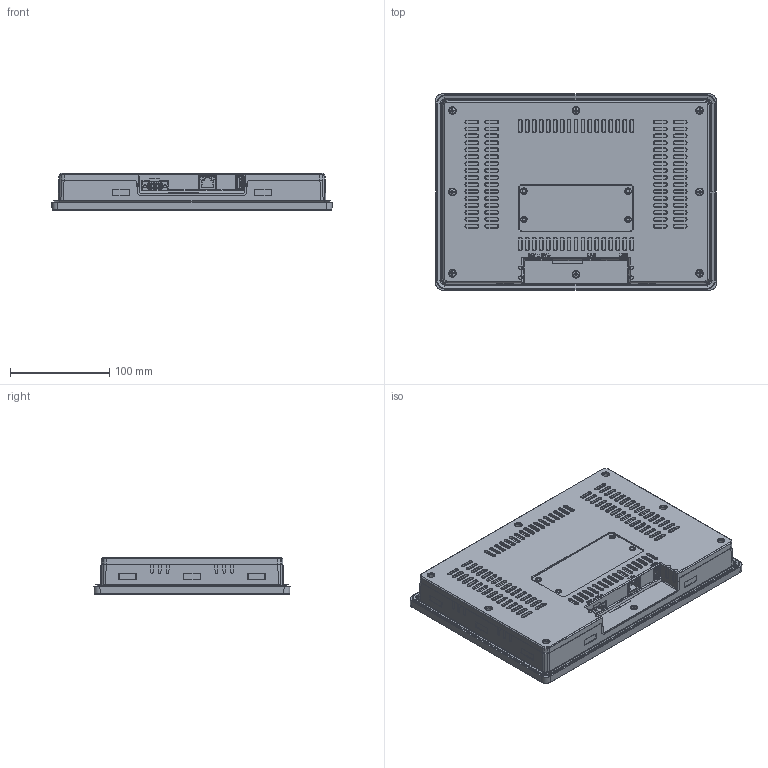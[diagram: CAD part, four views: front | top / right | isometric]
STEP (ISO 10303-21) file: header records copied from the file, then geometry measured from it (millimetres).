
FILE_DESCRIPTION (( 'STEP AP214' ), '1' );
FILE_NAME ('eX210 Web.STEP', '2024-02-16T08:28:04', ( '' ), ( '' ), 'SwSTEP 2.0', 'SolidWorks 2023', '' );
FILE_SCHEMA (( 'AUTOMOTIVE_DESIGN' ));
Products named in the file (1): eX210 Web
Bounding box: 282.56 x 197.56 x 37.85 mm (x, y, z)
Volume: 1838025.4 mm3; surface area: 172180.2 mm2
Topology: 1 solids, 17 shells, 3717 faces, 9387 edges, 5804 vertices
Faces by surface type: plane 1683, cylinder 869, bspline 387, cone 382, torus 338, sphere 58
Entity records: 120199 total; most frequent: CARTESIAN_POINT 33819, ORIENTED_EDGE 18646, DIRECTION 17250, EDGE_CURVE 9323, AXIS2_PLACEMENT_3D 5961, VERTEX_POINT 5804, VECTOR 5328, LINE 5328
